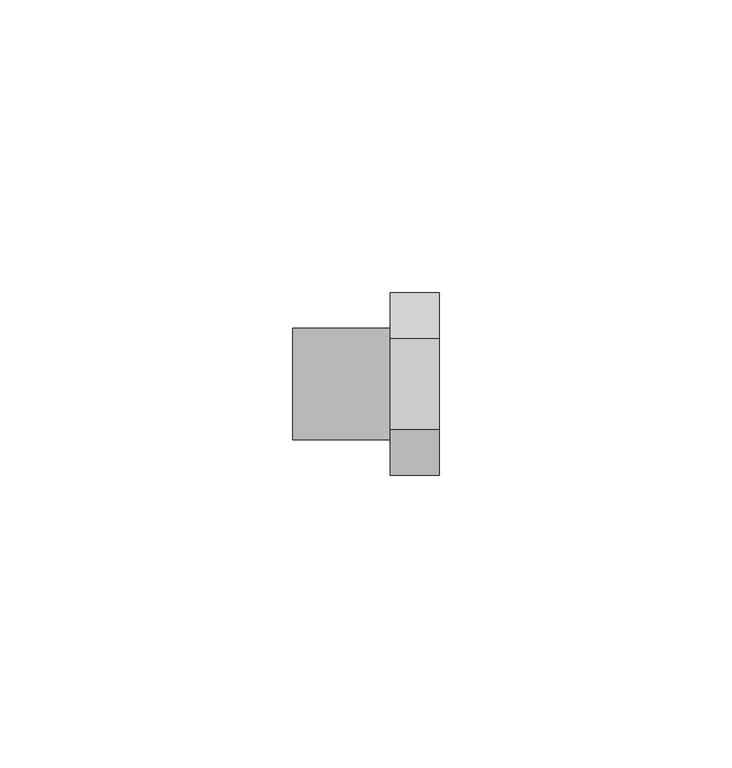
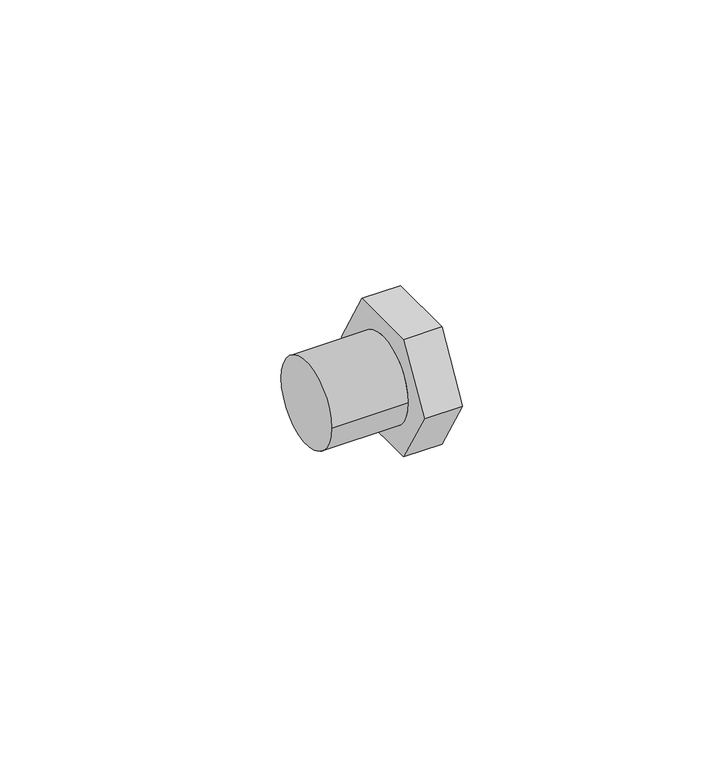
"""IFC4 building model written with IfcOpenShell, lengths in millimetres: pipe fitting geometry, 01011011 : Tapones M."""

from ifc_helpers import new_model, si_unit, point, frame, origin, origin_2d, place, context, project, spatial, circle_curve, trimmed, segment, composite_curve, outline, extrude, source, transform, mapped, element, save
from ifc_brep_helpers import plane_surface, cylinder_surface, advanced_brep


def pipe_fitting_7c69d736(model_context):
    return source(origin(), model_context, "Body", "SolidModel", [
        extrude(outline(composite_curve([segment(trimmed(circle_curve(origin_2d(), 9.525), [point((-9.525, 0.0))], [point((9.525, 0.0))], False, "CARTESIAN"), True, "CONTINUOUS"), segment(trimmed(circle_curve(origin_2d(), 9.525), [point((9.525, 0.0))], [point((-9.525, 0.0))], False, "CARTESIAN"), True, "CONTINUOUS")], self_intersect=False)), frame((0.0, 0.0, 0.0), z_axis=(1.0, 0.0, 0.0), x_axis=(0.0, 1.0, 0.0)), (0.0, 0.0, 1.0), 16.6666667),
        advanced_brep(
        [(25.0, -7.7942286, 13.5), (25.0, -15.5884573, 0.0), (25.0, -7.7942286, -13.5), (25.0, 7.7942286, -13.5), (25.0, 15.5884573, 0.0), (25.0, 7.7942286, 13.5), (16.6666667, -7.7942286, 13.5), (16.6666667, 7.7942286, 13.5), (16.6666667, 15.5884573, 0.0), (16.6666667, 7.7942286, -13.5), (16.6666667, -7.7942286, -13.5), (16.6666667, -15.5884573, 0.0), (16.6666667, 9.525, 0.0), (16.6666667, -9.525, 0.0), (0.0, -9.525, 0.0), (0.0, 9.525, 0.0)],
        [
            (0, 1),
            (1, 2),
            (2, 3),
            (3, 4),
            (4, 5),
            (5, 0),
            (6, 7),
            (7, 8),
            (8, 9),
            (9, 10),
            (10, 11),
            (11, 6),
            (12, 13, circle_curve(frame((16.6666667, 0.0, 0.0), z_axis=(1.0, 0.0, 0.0), x_axis=(0.0, 1.0, 0.0)), 9.525)),
            (13, 12, circle_curve(frame((16.6666667, 0.0, 0.0), z_axis=(1.0, 0.0, 0.0), x_axis=(0.0, 1.0, 0.0)), 9.525)),
            (0, 6),
            (11, 1),
            (10, 2),
            (9, 3),
            (8, 4),
            (7, 5),
            (14, 15, circle_curve(frame((0.0, 0.0, 0.0), z_axis=(-1.0, 0.0, 0.0), x_axis=(0.0, 1.0, 0.0)), 9.525)),
            (15, 14, circle_curve(frame((0.0, 0.0, 0.0), z_axis=(-1.0, 0.0, 0.0), x_axis=(0.0, 1.0, 0.0)), 9.525)),
            (14, 13),
            (12, 15),
        ],
        [
            plane_surface(frame((25.0, -7.7942286, 13.5), z_axis=(1.0, 0.0, 0.0), x_axis=(0.0, -0.5000000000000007, -0.8660254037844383))),
            plane_surface(frame((16.6666667, -7.7942286, 13.5), z_axis=(-1.0, 0.0, 0.0), x_axis=(0.0, 0.5000000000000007, 0.8660254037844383))),
            plane_surface(frame((25.0, -7.7942286, 13.5), z_axis=(0.0, -0.8660254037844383, 0.5000000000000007), x_axis=(-1.0, 0.0, 0.0))),
            plane_surface(frame((25.0, -15.5884573, 0.0), z_axis=(0.0, -0.8660254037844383, -0.5000000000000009), x_axis=(-1.0, 0.0, 0.0))),
            plane_surface(frame((25.0, -7.7942286, -13.5), z_axis=(0.0, 0.0, -1.0), x_axis=(-1.0, 0.0, 0.0))),
            plane_surface(frame((25.0, 7.7942286, -13.5), z_axis=(0.0, 0.8660254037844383, -0.5000000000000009), x_axis=(-1.0, 0.0, 0.0))),
            plane_surface(frame((25.0, 15.5884573, 0.0), z_axis=(0.0, 0.8660254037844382, 0.500000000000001), x_axis=(-1.0, 0.0, 0.0))),
            plane_surface(frame((25.0, 7.7942286, 13.5), z_axis=(0.0, 0.0, 1.0), x_axis=(-1.0, 0.0, 0.0))),
            plane_surface(frame((0.0, 0.0, 0.0), z_axis=(-1.0, 0.0, 0.0), x_axis=(0.0, 0.0, 1.0))),
            cylinder_surface(frame((0.0, 0.0, 0.0), z_axis=(-1.0, 0.0, 0.0), x_axis=(0.0, 1.0, 0.0)), 9.525),
        ],
        [
            (0, [[1, 2, 3, 4, 5, 6]]),
            (1, [[7, 8, 9, 10, 11, 12], [13, 14]]),
            (2, [[-1, 15, -12, 16]]),
            (3, [[-2, -16, -11, 17]]),
            (4, [[-3, -17, -10, 18]]),
            (5, [[-4, -18, -9, 19]]),
            (6, [[-5, -19, -8, 20]]),
            (7, [[-6, -20, -7, -15]]),
            (8, [[21, 22]]),
            (9, [[-21, 23, -13, 24]]),
            (9, [[-22, -24, -14, -23]]),
        ],
    ),
    ])


if __name__ == "__main__":
    model = new_model("IFC4")
    model_context = context("Model", 3, world=origin())
    ifc_project = project(units=[si_unit("LENGTHUNIT", "METRE", prefix="MILLI")], contexts=[model_context])
    site = spatial("IfcSite", under=ifc_project)
    building = spatial("IfcBuilding", under=site)
    placement = place(None, origin())
    pipe_fitting_shape = pipe_fitting_7c69d736(model_context)
    element("IfcPipeFitting", 1, ObjectType="01011011 : Tapones M", at=placement, inside=building, context=model_context, shape_type="MappedRepresentation", body=[
        mapped(pipe_fitting_shape, transform((0.0, 0.0, 0.0), x_axis=(1.0, 0.0, 0.0), y_axis=(0.0, 1.0, 0.0), z_axis=(0.0, 0.0, 1.0))),
    ])
    save(model, "model.ifc")
